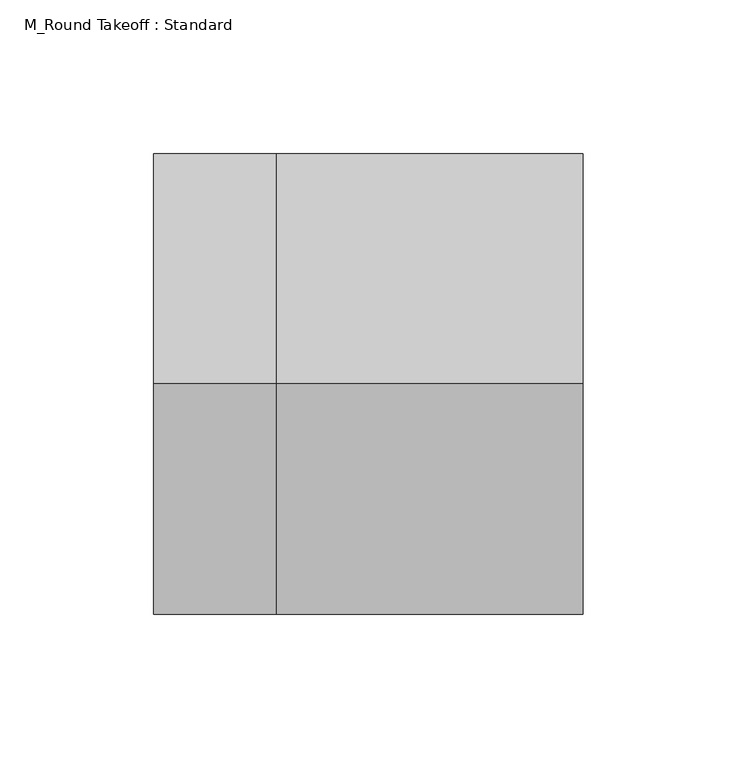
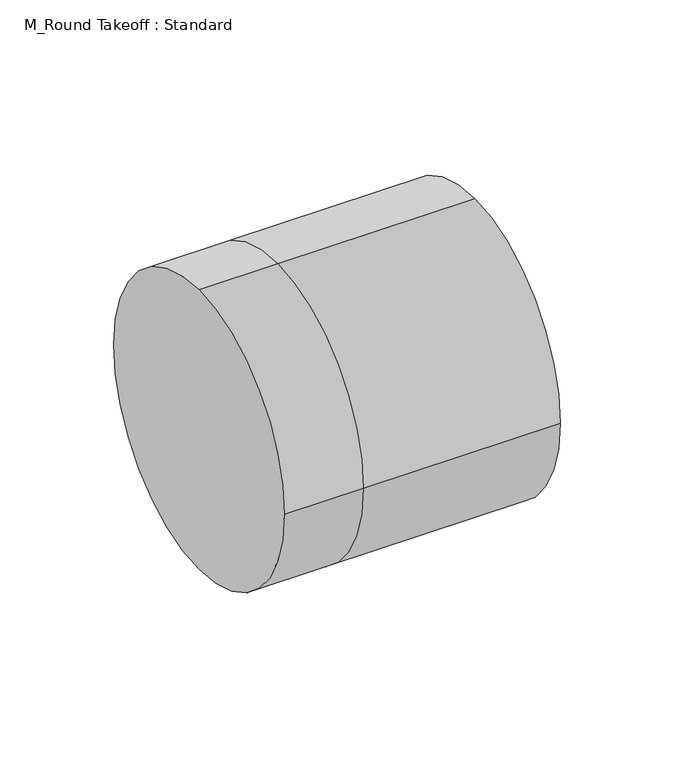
"""IFC4 building model written with IfcOpenShell, lengths in millimetres: duct fitting geometry, M_Round Takeoff : Standard."""

from ifc_helpers import new_model, si_unit, frame, origin, place, context, project, spatial, circle_curve, source, transform, mapped, element, save
from ifc_brep_helpers import plane_surface, cylinder_surface, advanced_brep


def m_round_takeoff_standard_bf54a221(model_context):
    return source(origin(), model_context, "Body", "AdvancedBrep", [
        advanced_brep(
        [(-39.9522172, 0.0, 75.0), (-39.9522172, 75.0, 0.0), (-39.9522172, 0.0, -75.0), (-39.9522172, -75.0, 0.0), (0.0, -75.0, 0.0), (0.0, 0.0, 75.0), (0.0, 0.0, -75.0), (0.0, 75.0, 0.0), (100.0, 0.0, 75.0), (100.0, -75.0, 0.0), (100.0, 0.0, -75.0), (100.0, 75.0, 0.0)],
        [
            (0, 1, circle_curve(frame((-39.9522172, 0.0, 0.0), z_axis=(-1.0, 0.0, 0.0), x_axis=(0.0, -1.0, 0.0)), 75.0)),
            (1, 2, circle_curve(frame((-39.9522172, 0.0, 0.0), z_axis=(-1.0, 0.0, 0.0), x_axis=(0.0, -1.0, 0.0)), 75.0)),
            (2, 3, circle_curve(frame((-39.9522172, 0.0, 0.0), z_axis=(-1.0, 0.0, 0.0), x_axis=(0.0, -1.0, 0.0)), 75.0)),
            (3, 0, circle_curve(frame((-39.9522172, 0.0, 0.0), z_axis=(-1.0, 0.0, 0.0), x_axis=(0.0, -1.0, 0.0)), 75.0)),
            (3, 4),
            (4, 5, circle_curve(frame((0.0, 0.0, 0.0), z_axis=(-1.0, 0.0, 0.0), x_axis=(0.0, -1.0, 0.0)), 75.0)),
            (5, 0),
            (2, 6),
            (6, 4, circle_curve(frame((0.0, 0.0, 0.0), z_axis=(-1.0, 0.0, 0.0), x_axis=(0.0, -1.0, 0.0)), 75.0)),
            (1, 7),
            (7, 6, circle_curve(frame((0.0, 0.0, 0.0), z_axis=(-1.0, 0.0, 0.0), x_axis=(0.0, -1.0, 0.0)), 75.0)),
            (5, 7, circle_curve(frame((0.0, 0.0, 0.0), z_axis=(-1.0, 0.0, 0.0), x_axis=(0.0, -1.0, 0.0)), 75.0)),
            (8, 9, circle_curve(frame((100.0, 0.0, 0.0), z_axis=(1.0, 0.0, 0.0), x_axis=(0.0, -1.0, 0.0)), 75.0)),
            (9, 10, circle_curve(frame((100.0, 0.0, 0.0), z_axis=(1.0, 0.0, 0.0), x_axis=(0.0, -1.0, 0.0)), 75.0)),
            (10, 11, circle_curve(frame((100.0, 0.0, 0.0), z_axis=(1.0, 0.0, 0.0), x_axis=(0.0, -1.0, 0.0)), 75.0)),
            (11, 8, circle_curve(frame((100.0, 0.0, 0.0), z_axis=(1.0, 0.0, 0.0), x_axis=(0.0, -1.0, 0.0)), 75.0)),
            (8, 5),
            (4, 9),
            (6, 10),
            (7, 11),
        ],
        [
            plane_surface(frame((-39.9522172, 0.0, 0.0), z_axis=(-1.0, 0.0, 0.0), x_axis=(0.0, 0.0, 1.0))),
            cylinder_surface(frame((-39.9522172, 0.0, 0.0), z_axis=(-1.0, 0.0, 0.0), x_axis=(0.0, -1.0, 0.0)), 75.0),
            plane_surface(frame((100.0, 0.0, 0.0), z_axis=(1.0, 0.0, 0.0), x_axis=(0.0, 0.0, 1.0))),
            cylinder_surface(frame((0.0, 0.0, 0.0), z_axis=(-1.0, 0.0, 0.0), x_axis=(0.0, -1.0, 0.0)), 75.0),
        ],
        [
            (0, [[1, 2, 3, 4]]),
            (1, [[5, 6, 7, -4]]),
            (1, [[8, 9, -5, -3]]),
            (1, [[10, 11, -8, -2]]),
            (1, [[-7, 12, -10, -1]]),
            (2, [[13, 14, 15, 16]]),
            (3, [[17, -6, 18, -13]]),
            (3, [[-18, -9, 19, -14]]),
            (3, [[-19, -11, 20, -15]]),
            (3, [[-20, -12, -17, -16]]),
        ],
    ),
        advanced_brep(
        [(100.0, 0.0, 75.0), (100.0, -75.0, 0.0), (100.0, 0.0, -75.0), (100.0, 75.0, 0.0), (0.0, 0.0, 75.0), (0.0, -75.0, 0.0), (0.0, 0.0, -75.0), (0.0, 75.0, 0.0), (-39.9522172, 0.0, 75.0), (-39.9522172, 75.0, 0.0), (-39.9522172, 0.0, -75.0), (-39.9522172, -75.0, 0.0)],
        [
            (0, 1, circle_curve(frame((100.0, 0.0, 0.0), z_axis=(1.0, 0.0, 0.0), x_axis=(0.0, -1.0, 0.0)), 75.0)),
            (1, 2, circle_curve(frame((100.0, 0.0, 0.0), z_axis=(1.0, 0.0, 0.0), x_axis=(0.0, -1.0, 0.0)), 75.0)),
            (2, 3, circle_curve(frame((100.0, 0.0, 0.0), z_axis=(1.0, 0.0, 0.0), x_axis=(0.0, -1.0, 0.0)), 75.0)),
            (3, 0, circle_curve(frame((100.0, 0.0, 0.0), z_axis=(1.0, 0.0, 0.0), x_axis=(0.0, -1.0, 0.0)), 75.0)),
            (0, 4),
            (4, 5, circle_curve(frame((0.0, 0.0, 0.0), z_axis=(1.0, 0.0, 0.0), x_axis=(0.0, -1.0, 0.0)), 75.0)),
            (5, 1),
            (5, 6, circle_curve(frame((0.0, 0.0, 0.0), z_axis=(1.0, 0.0, 0.0), x_axis=(0.0, -1.0, 0.0)), 75.0)),
            (6, 2),
            (6, 7, circle_curve(frame((0.0, 0.0, 0.0), z_axis=(1.0, 0.0, 0.0), x_axis=(0.0, -1.0, 0.0)), 75.0)),
            (7, 3),
            (7, 4, circle_curve(frame((0.0, 0.0, 0.0), z_axis=(1.0, 0.0, 0.0), x_axis=(0.0, -1.0, 0.0)), 75.0)),
            (8, 9, circle_curve(frame((-39.9522172, 0.0, 0.0), z_axis=(-1.0, 0.0, 0.0), x_axis=(0.0, -1.0, 0.0)), 75.0)),
            (9, 10, circle_curve(frame((-39.9522172, 0.0, 0.0), z_axis=(-1.0, 0.0, 0.0), x_axis=(0.0, -1.0, 0.0)), 75.0)),
            (10, 11, circle_curve(frame((-39.9522172, 0.0, 0.0), z_axis=(-1.0, 0.0, 0.0), x_axis=(0.0, -1.0, 0.0)), 75.0)),
            (11, 8, circle_curve(frame((-39.9522172, 0.0, 0.0), z_axis=(-1.0, 0.0, 0.0), x_axis=(0.0, -1.0, 0.0)), 75.0)),
            (11, 5),
            (4, 8),
            (10, 6),
            (9, 7),
        ],
        [
            plane_surface(frame((100.0, 0.0, 0.0), z_axis=(1.0, 0.0, 0.0), x_axis=(0.0, 0.0, 1.0))),
            cylinder_surface(frame((0.0, 0.0, 0.0), z_axis=(-1.0, 0.0, 0.0), x_axis=(0.0, -1.0, 0.0)), 75.0),
            plane_surface(frame((-39.9522172, 0.0, 0.0), z_axis=(-1.0, 0.0, 0.0), x_axis=(0.0, 0.0, 1.0))),
            cylinder_surface(frame((-39.9522172, 0.0, 0.0), z_axis=(-1.0, 0.0, 0.0), x_axis=(0.0, -1.0, 0.0)), 75.0),
        ],
        [
            (0, [[1, 2, 3, 4]]),
            (1, [[5, 6, 7, -1]]),
            (1, [[-7, 8, 9, -2]]),
            (1, [[-9, 10, 11, -3]]),
            (1, [[-11, 12, -5, -4]]),
            (2, [[13, 14, 15, 16]]),
            (3, [[17, -6, 18, -16]]),
            (3, [[19, -8, -17, -15]]),
            (3, [[20, -10, -19, -14]]),
            (3, [[-18, -12, -20, -13]]),
        ],
    ),
        advanced_brep(
        [(-39.9522172, 0.0, 75.0), (-39.9522172, 75.0, 0.0), (-39.9522172, 0.0, -75.0), (-39.9522172, -75.0, 0.0), (0.0, -75.0, 0.0), (0.0, 0.0, 75.0), (0.0, 0.0, -75.0), (0.0, 75.0, 0.0), (100.0, 0.0, 75.0), (100.0, -75.0, 0.0), (100.0, 0.0, -75.0), (100.0, 75.0, 0.0)],
        [
            (0, 1, circle_curve(frame((-39.9522172, 0.0, 0.0), z_axis=(-1.0, 0.0, 0.0), x_axis=(0.0, -1.0, 0.0)), 75.0)),
            (1, 2, circle_curve(frame((-39.9522172, 0.0, 0.0), z_axis=(-1.0, 0.0, 0.0), x_axis=(0.0, -1.0, 0.0)), 75.0)),
            (2, 3, circle_curve(frame((-39.9522172, 0.0, 0.0), z_axis=(-1.0, 0.0, 0.0), x_axis=(0.0, -1.0, 0.0)), 75.0)),
            (3, 0, circle_curve(frame((-39.9522172, 0.0, 0.0), z_axis=(-1.0, 0.0, 0.0), x_axis=(0.0, -1.0, 0.0)), 75.0)),
            (3, 4),
            (4, 5, circle_curve(frame((0.0, 0.0, 0.0), z_axis=(-1.0, 0.0, 0.0), x_axis=(0.0, -1.0, 0.0)), 75.0)),
            (5, 0),
            (2, 6),
            (6, 4, circle_curve(frame((0.0, 0.0, 0.0), z_axis=(-1.0, 0.0, 0.0), x_axis=(0.0, -1.0, 0.0)), 75.0)),
            (1, 7),
            (7, 6, circle_curve(frame((0.0, 0.0, 0.0), z_axis=(-1.0, 0.0, 0.0), x_axis=(0.0, -1.0, 0.0)), 75.0)),
            (5, 7, circle_curve(frame((0.0, 0.0, 0.0), z_axis=(-1.0, 0.0, 0.0), x_axis=(0.0, -1.0, 0.0)), 75.0)),
            (8, 9, circle_curve(frame((100.0, 0.0, 0.0), z_axis=(1.0, 0.0, 0.0), x_axis=(0.0, -1.0, 0.0)), 75.0)),
            (9, 10, circle_curve(frame((100.0, 0.0, 0.0), z_axis=(1.0, 0.0, 0.0), x_axis=(0.0, -1.0, 0.0)), 75.0)),
            (10, 11, circle_curve(frame((100.0, 0.0, 0.0), z_axis=(1.0, 0.0, 0.0), x_axis=(0.0, -1.0, 0.0)), 75.0)),
            (11, 8, circle_curve(frame((100.0, 0.0, 0.0), z_axis=(1.0, 0.0, 0.0), x_axis=(0.0, -1.0, 0.0)), 75.0)),
            (8, 5),
            (4, 9),
            (6, 10),
            (7, 11),
        ],
        [
            plane_surface(frame((-39.9522172, 0.0, 0.0), z_axis=(-1.0, 0.0, 0.0), x_axis=(0.0, 0.0, 1.0))),
            cylinder_surface(frame((-39.9522172, 0.0, 0.0), z_axis=(-1.0, 0.0, 0.0), x_axis=(0.0, -1.0, 0.0)), 75.0),
            plane_surface(frame((100.0, 0.0, 0.0), z_axis=(1.0, 0.0, 0.0), x_axis=(0.0, 0.0, 1.0))),
            cylinder_surface(frame((0.0, 0.0, 0.0), z_axis=(-1.0, 0.0, 0.0), x_axis=(0.0, -1.0, 0.0)), 75.0),
        ],
        [
            (0, [[1, 2, 3, 4]]),
            (1, [[5, 6, 7, -4]]),
            (1, [[8, 9, -5, -3]]),
            (1, [[10, 11, -8, -2]]),
            (1, [[-7, 12, -10, -1]]),
            (2, [[13, 14, 15, 16]]),
            (3, [[17, -6, 18, -13]]),
            (3, [[-18, -9, 19, -14]]),
            (3, [[-19, -11, 20, -15]]),
            (3, [[-20, -12, -17, -16]]),
        ],
    ),
    ])


if __name__ == "__main__":
    model = new_model("IFC4")
    model_context = context("Model", 3, world=origin())
    ifc_project = project(units=[si_unit("LENGTHUNIT", "METRE", prefix="MILLI")], contexts=[model_context])
    site = spatial("IfcSite", under=ifc_project)
    building = spatial("IfcBuilding", under=site)
    placement = place(None, origin())
    m_round_takeoff_standard_shape = m_round_takeoff_standard_bf54a221(model_context)
    element("IfcDuctFitting", 1, ObjectType="M_Round Takeoff : Standard", at=placement, inside=building, context=model_context, shape_type="MappedRepresentation", body=[
        mapped(m_round_takeoff_standard_shape, transform((0.0, 0.0, 0.0), x_axis=(1.0, 0.0, 0.0), y_axis=(0.0, 1.0, 0.0), z_axis=(0.0, 0.0, 1.0))),
    ])
    save(model, "model.ifc")
